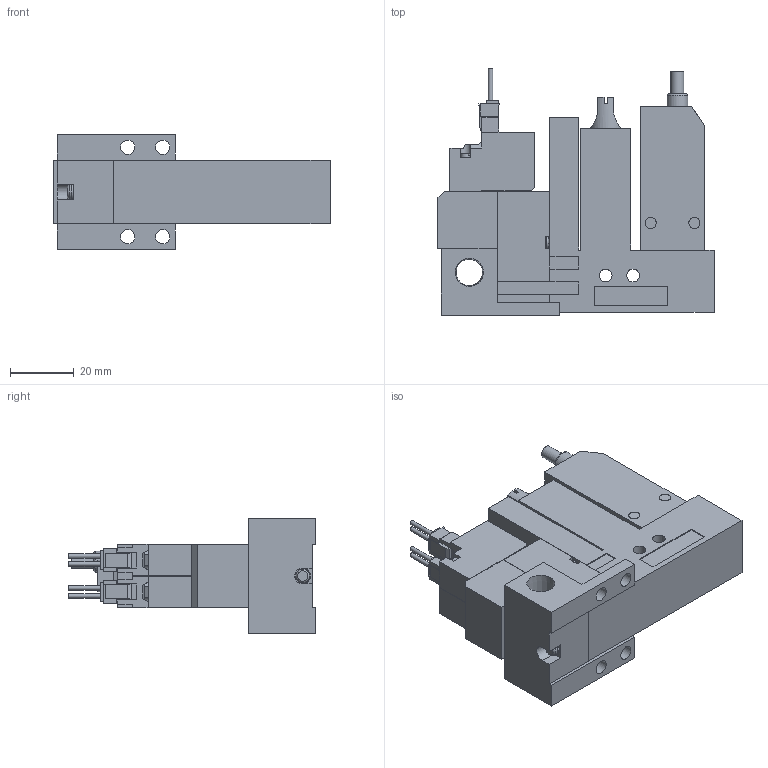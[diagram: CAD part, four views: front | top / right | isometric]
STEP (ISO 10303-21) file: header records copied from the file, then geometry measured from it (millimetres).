
FILE_DESCRIPTION(('STEP AP203'),'1');
FILE_NAME('ABS_ABPL5BLR101.stp','2025-02-18T05:25:18',(' '),(' '),'Spatial InterOp 3D',' ',' ');
FILE_SCHEMA(('CONFIG_CONTROL_DESIGN'));
Length unit declared in the file: millimetre
Products named in the file (5): BMC22M※※※※ABS_ABPL5BLR101; Solenoid valve B; Pressure sensor ABSL; Unit L; Base MR10R
Assembly tree (4 placements, depth 2):
  BMC22M※※※※ABS_ABPL5BLR101
    Solenoid valve B
    Pressure sensor ABSL
    Unit L
    Base MR10R
Bounding box: 86.6 x 77.45 x 36 mm (x, y, z)
Volume: 93915 mm3; surface area: 27385.2 mm2
Topology: 4 solids, 4 shells, 372 faces, 1000 edges, 661 vertices
Faces by surface type: plane 312, cylinder 47, cone 9, torus 4
Full cylindrical faces by diameter (mm): 1.4 x4, 2.5 x1, 3 x4, 3.5 x6, 3.6 x1, 4 x3, 4.134 x1, 4.5 x4, 5.2 x1, 6 x1, 6.5 x1, 6.6 x1, 8.279 x1
Entity records: 11560 total; most frequent: CARTESIAN_POINT 2104, ORIENTED_EDGE 1880, DIRECTION 1825, EDGE_CURVE 940, LINE 799, VECTOR 799, VERTEX_POINT 647, AXIS2_PLACEMENT_3D 513
